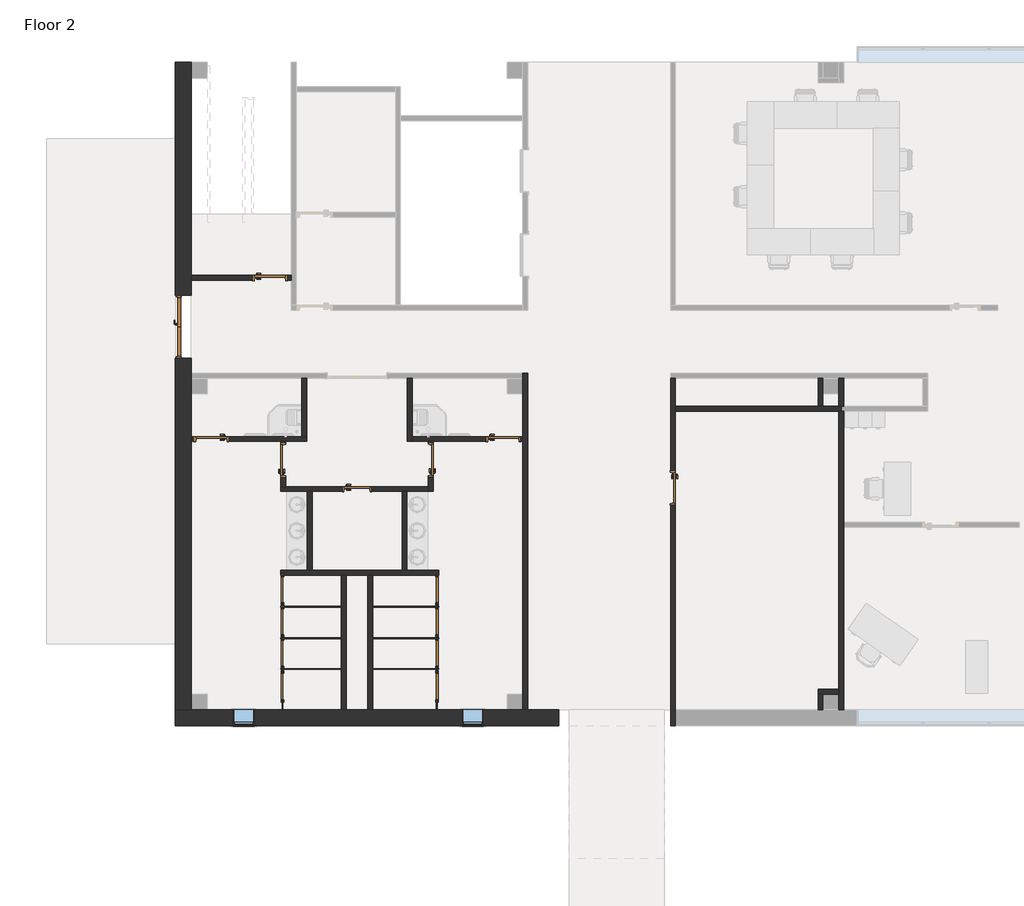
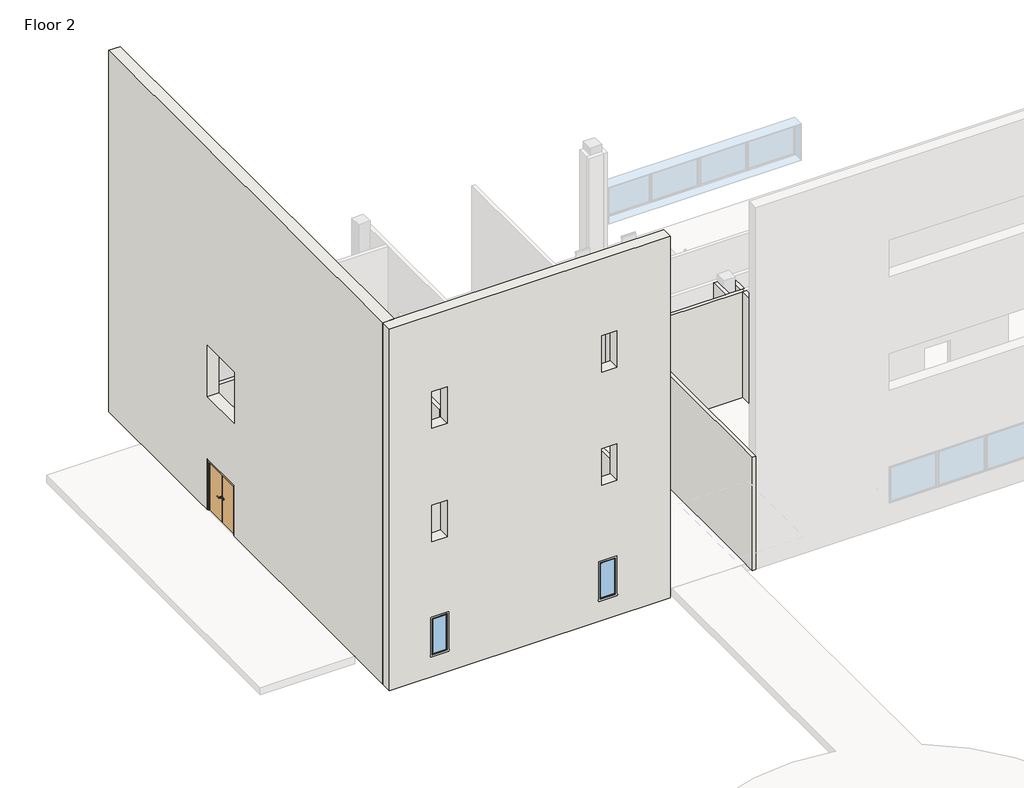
# One storey, part 1 of 7: 37 walls, 16 doors, 2 windows.
"""IFC4 building model written with IfcOpenShell, lengths in millimetres."""

from ifc_helpers import new_model, si_unit, frame, origin, place, context, project, spatial, polyline, outline, extrude, faceted_brep, transform, mapped, element, save
from components import door_efda3cbc, door_b22482a1, door_36f17018, door_a46f4f49, door_b03708da, door_cef5613e, window_69ce9bab

model = new_model("IFC4")

# Units and contexts
model_context = context("Model", 3, world=origin())
ifc_project = project(units=[si_unit("LENGTHUNIT", "METRE", prefix="MILLI")], contexts=[model_context])

# Site, building, storey
site = spatial("IfcSite", under=ifc_project)
building = spatial("IfcBuilding", under=site)
storey = spatial("IfcBuildingStorey", under=building, Name="Floor 2", Elevation=5486.4)

# Doors
placement = place(None, origin())
door_shape = door_efda3cbc(model_context)
element("IfcDoor", 1, ObjectType="Door-Passage-Double-Flush : 68\" x 80\"", at=placement, inside=storey, context=model_context, shape_type="MappedRepresentation", body=[
    mapped(door_shape, transform((-3186.4602165, 49707.011889, 5486.4), x_axis=(0.0, 1.0, 0.0), y_axis=(-1.0, 0.0, 0.0), z_axis=(0.0, 0.0, 1.0))),
])
door_2_shape = door_b22482a1(model_context)
element("IfcDoor", 2, ObjectType="Door-Passage-Single-Flush : 30\" x 84\"", at=placement, inside=storey, context=model_context, shape_type="MappedRepresentation", body=[
    mapped(door_2_shape, transform((1836.7692024, 45008.011889, 5486.4), x_axis=(1.0, 0.0, 0.0), y_axis=(0.0, 1.0, 0.0), z_axis=(0.0, 0.0, 1.0))),
])
door_3_shape = door_36f17018(model_context)
element("IfcDoor", 3, ObjectType="Door-Passage-Single-Flush : 36\" x 84\"", at=placement, inside=storey, context=model_context, shape_type="MappedRepresentation", body=[
    mapped(door_3_shape, transform((3964.0192024, 45858.911889, 5486.4), x_axis=(0.0, 1.0, 0.0), y_axis=(-1.0, 0.0, 0.0), z_axis=(0.0, 0.0, 1.0))),
])
element("IfcDoor", 4, ObjectType="Door-Passage-Single-Flush : 36\" x 84\"", at=placement, inside=storey, context=model_context, shape_type="MappedRepresentation", body=[
    mapped(door_3_shape, transform((-2380.0102165, 46455.811889, 5486.4), x_axis=(-1.0, 0.0, 0.0), y_axis=(0.0, -1.0, 0.0), z_axis=(0.0, 0.0, 1.0))),
])
door_4_shape = door_a46f4f49(model_context)
element("IfcDoor", 5, ObjectType="Door-Passage-Single-Flush : 36\" x 84\"", at=placement, inside=storey, context=model_context, shape_type="MappedRepresentation", body=[
    mapped(door_4_shape, transform((-684.1807976, 51116.711889, 5486.4), x_axis=(1.0, 0.0, 0.0), y_axis=(0.0, 1.0, 0.0), z_axis=(0.0, 0.0, 1.0))),
])
element("IfcDoor", 6, ObjectType="Door-Passage-Single-Flush : 36\" x 84\"", at=placement, inside=storey, context=model_context, shape_type="MappedRepresentation", body=[
    mapped(door_4_shape, transform((-290.4807976, 45852.561889, 5486.4), x_axis=(0.0, 1.0, 0.0), y_axis=(-1.0, 0.0, 0.0), z_axis=(0.0, 0.0, 1.0))),
])
element("IfcDoor", 7, ObjectType="Door-Passage-Single-Flush : 36\" x 84\"", at=placement, inside=storey, context=model_context, shape_type="MappedRepresentation", body=[
    mapped(door_4_shape, transform((6072.2192024, 46455.811889, 5486.4), x_axis=(1.0, 0.0, 0.0), y_axis=(0.0, 1.0, 0.0), z_axis=(0.0, 0.0, 1.0))),
])
element("IfcDoor", 8, ObjectType="Door-Passage-Single-Flush : 36\" x 84\"", at=placement, inside=storey, context=model_context, shape_type="MappedRepresentation", body=[
    mapped(door_4_shape, transform((10974.4192024, 45046.111889, 5486.4), x_axis=(0.0, -1.0, 0.0), y_axis=(1.0, 0.0, 0.0), z_axis=(0.0, 0.0, 1.0))),
])
door_5_shape = door_b03708da(model_context)
element("IfcDoor", 9, ObjectType="Single-Flush : 30\" x 80\"", at=placement, inside=storey, context=model_context, shape_type="MappedRepresentation", body=[
    mapped(door_5_shape, transform((-322.2307976, 42096.536889, 5486.4), x_axis=(0.0, -1.0, 0.0), y_axis=(1.0, 0.0, 0.0), z_axis=(0.0, 0.0, 1.0))),
])
element("IfcDoor", 10, ObjectType="Single-Flush : 30\" x 80\"", at=placement, inside=storey, context=model_context, shape_type="MappedRepresentation", body=[
    mapped(door_5_shape, transform((-322.2307976, 41169.436889, 5486.4), x_axis=(0.0, -1.0, 0.0), y_axis=(1.0, 0.0, 0.0), z_axis=(0.0, 0.0, 1.0))),
])
element("IfcDoor", 11, ObjectType="Single-Flush : 30\" x 80\"", at=placement, inside=storey, context=model_context, shape_type="MappedRepresentation", body=[
    mapped(door_5_shape, transform((-322.2307976, 40255.036889, 5486.4), x_axis=(0.0, -1.0, 0.0), y_axis=(1.0, 0.0, 0.0), z_axis=(0.0, 0.0, 1.0))),
])
element("IfcDoor", 12, ObjectType="Single-Flush : 30\" x 80\"", at=placement, inside=storey, context=model_context, shape_type="MappedRepresentation", body=[
    mapped(door_5_shape, transform((-322.2307976, 39296.186889, 5486.4), x_axis=(0.0, -1.0, 0.0), y_axis=(1.0, 0.0, 0.0), z_axis=(0.0, 0.0, 1.0))),
])
door_6_shape = door_cef5613e(model_context)
element("IfcDoor", 13, ObjectType="Single-Flush : 30\" x 80\"", at=placement, inside=storey, context=model_context, shape_type="MappedRepresentation", body=[
    mapped(door_6_shape, transform((4148.1692024, 42096.536889, 5486.4), x_axis=(0.0, -1.0, 0.0), y_axis=(1.0, 0.0, 0.0), z_axis=(0.0, 0.0, 1.0))),
])
element("IfcDoor", 14, ObjectType="Single-Flush : 30\" x 80\"", at=placement, inside=storey, context=model_context, shape_type="MappedRepresentation", body=[
    mapped(door_6_shape, transform((4148.1692024, 41169.436889, 5486.4), x_axis=(0.0, -1.0, 0.0), y_axis=(1.0, 0.0, 0.0), z_axis=(0.0, 0.0, 1.0))),
])
element("IfcDoor", 15, ObjectType="Single-Flush : 30\" x 80\"", at=placement, inside=storey, context=model_context, shape_type="MappedRepresentation", body=[
    mapped(door_6_shape, transform((4148.1692024, 40255.036889, 5486.4), x_axis=(0.0, -1.0, 0.0), y_axis=(1.0, 0.0, 0.0), z_axis=(0.0, 0.0, 1.0))),
])
element("IfcDoor", 16, ObjectType="Single-Flush : 30\" x 80\"", at=placement, inside=storey, context=model_context, shape_type="MappedRepresentation", body=[
    mapped(door_6_shape, transform((4148.1692024, 39296.186889, 5486.4), x_axis=(0.0, -1.0, 0.0), y_axis=(1.0, 0.0, 0.0), z_axis=(0.0, 0.0, 1.0))),
])

# Walls
element("IfcWall", 17, ObjectType="Interior - 5 1/2\" Partition (1-hr)", at=placement, inside=storey, context=model_context, shape_type="Brep", body=[
    faceted_brep([(6777.0692024, 38618.324389, 5486.4), (6777.0692024, 48360.811889, 5486.4), (6777.0692024, 48360.811889, 10210.8), (6777.0692024, 38618.324389, 10210.8), (6637.3692024, 38618.324389, 5486.4), (6637.3692024, 38618.324389, 10210.8), (6637.3692024, 48360.811889, 10210.8), (6637.3692024, 48360.811889, 9906.0), (6637.3692024, 48360.811889, 5486.4), (6637.3692024, 48221.111889, 5486.4), (6637.3692024, 46532.011889, 5486.4), (6637.3692024, 46392.311889, 5486.4)], [[[0, 1, 2, 3]], [[4, 5, 6, 7, 8, 9, 10, 11]], [[1, 0, 4, 11, 10, 9, 8]], [[3, 2, 6, 5]], [[2, 1, 8, 7, 6]], [[0, 3, 5, 4]]]),
])
element("IfcWall", 18, ObjectType="Interior - 5 1/2\" Partition (1-hr)", at=placement, inside=storey, context=model_context, shape_type="SweptSolid", body=[
    extrude(outline(polyline([(7721.6, -176.1807976), (5486.4, -176.1807976), (5486.4, -61.8807976), (10210.8, -61.8807976), (10210.8, -2965.7977165), (5486.4, -2965.7977165), (5486.4, -1192.1807976), (7721.6, -1192.1807976), (7721.6, -176.1807976)])), frame((0.0, 51053.211889, 0.0), z_axis=(0.0, 1.0, 0.0), x_axis=(0.0, 0.0, 1.0)), (0.0, 0.0, 1.0), 139.7),
])
element("IfcWall", 19, ObjectType="Interior - 5 1/2\" Partition (1-hr)", at=placement, inside=storey, context=model_context, shape_type="Brep", body=[
    faceted_brep([(3290.9192024, 48221.111889, 5486.4), (3290.9192024, 46392.311889, 5486.4), (3290.9192024, 46392.311889, 9906.0), (3290.9192024, 48221.111889, 9906.0), (3430.6192024, 48221.111889, 5486.4), (3430.6192024, 48221.111889, 9906.0), (3430.6192024, 46532.011889, 9906.0), (3430.6192024, 46392.311889, 9906.0), (3430.6192024, 46392.311889, 5486.4), (3430.6192024, 46532.011889, 5486.4)], [[[0, 1, 2, 3]], [[4, 5, 6, 7, 8, 9]], [[1, 0, 4, 9, 8]], [[2, 1, 8, 7]], [[0, 3, 5, 4]], [[3, 2, 7, 6, 5]]]),
])
element("IfcWall", 20, ObjectType="Interior - 5 1/2\" Partition (1-hr)", at=placement, inside=storey, context=model_context, shape_type="Brep", body=[
    faceted_brep([(6580.2192024, 46392.311889, 7721.6), (6580.2192024, 46392.311889, 5486.4), (6637.3692024, 46392.311889, 5486.4), (6637.3692024, 46392.311889, 9906.0), (4040.2192024, 46392.311889, 9906.0), (3900.5192024, 46392.311889, 9906.0), (3430.6192024, 46392.311889, 9906.0), (3430.6192024, 46392.311889, 5486.4), (3900.5192024, 46392.311889, 5486.4), (4040.2192024, 46392.311889, 5486.4), (5564.2192024, 46392.311889, 5486.4), (5564.2192024, 46392.311889, 7721.6), (6637.3692024, 46532.011889, 5486.4), (6580.2192024, 46532.011889, 5486.4), (6580.2192024, 46532.011889, 7721.6), (5564.2192024, 46532.011889, 7721.6), (5564.2192024, 46532.011889, 5486.4), (3430.6192024, 46532.011889, 5486.4), (3430.6192024, 46532.011889, 9906.0), (6637.3692024, 46532.011889, 9906.0)], [[[0, 1, 2, 3, 4, 5, 6, 7, 8, 9, 10, 11]], [[12, 13, 14, 15, 16, 17, 18, 19]], [[2, 1, 13, 12]], [[10, 9, 8, 7, 17, 16]], [[7, 6, 18, 17]], [[3, 2, 12, 19]], [[6, 5, 4, 3, 19, 18]], [[14, 13, 1, 0]], [[15, 14, 0, 11]], [[16, 15, 11, 10]]]),
])
element("IfcWall", 21, ObjectType="Interior - 5 1/2\" Partition (1-hr)", at=placement, inside=storey, context=model_context, shape_type="Brep", body=[
    faceted_brep([(-2965.7977165, 46392.311889, 10210.8), (382.6192024, 46392.311889, 10210.8), (382.6192024, 46532.011889, 10210.8), (-2965.7977165, 46532.011889, 10210.8), (-2965.7977165, 46392.311889, 5486.4), (-2888.0102165, 46392.311889, 5486.4), (-2888.0102165, 46392.311889, 7721.6), (-1872.0102165, 46392.311889, 7721.6), (-1872.0102165, 46392.311889, 5486.4), (-366.6807976, 46392.311889, 5486.4), (-226.9807976, 46392.311889, 5486.4), (382.6192024, 46392.311889, 5486.4), (-2888.0102165, 46532.011889, 7721.6), (-2888.0102165, 46532.011889, 5486.4), (-2965.7977165, 46532.011889, 5486.4), (382.6192024, 46532.011889, 9906.0), (382.6192024, 46532.011889, 5486.4), (242.9192024, 46532.011889, 5486.4), (-1872.0102165, 46532.011889, 5486.4), (-1872.0102165, 46532.011889, 7721.6)], [[[0, 1, 2, 3]], [[4, 5, 6, 7, 8, 9, 10, 11, 1, 0]], [[12, 13, 14, 3, 2, 15, 16, 17, 18, 19]], [[14, 13, 5, 4]], [[18, 17, 16, 11, 10, 9, 8]], [[1, 11, 16, 15, 2]], [[4, 0, 3, 14]], [[6, 5, 13, 12]], [[7, 6, 12, 19]], [[8, 7, 19, 18]]]),
])
element("IfcWall", 22, ObjectType="Interior - 5 1/2\" Partition (1-hr)", at=placement, inside=storey, context=model_context, shape_type="SweptSolid", body=[
    extrude(outline(polyline([(382.6192024, 48221.111889), (382.6192024, 46532.011889), (242.9192024, 46532.011889), (242.9192024, 48221.111889), (382.6192024, 48221.111889)])), frame((0.0, 0.0, 5486.4), z_axis=(0.0, 0.0, 1.0), x_axis=(1.0, 0.0, 0.0)), (0.0, 0.0, 1.0), 4419.6),
])
element("IfcWall", 23, ObjectType="Interior - 5 1/2\" Partition (1-hr)", at=placement, inside=storey, context=model_context, shape_type="Brep", body=[
    faceted_brep([(3900.5192024, 46392.311889, 5486.4), (3900.5192024, 46366.911889, 5486.4), (3900.5192024, 46366.911889, 7721.6), (3900.5192024, 45350.911889, 7721.6), (3900.5192024, 45350.911889, 5486.4), (3900.5192024, 45084.211889, 5486.4), (3900.5192024, 44944.511889, 5486.4), (3900.5192024, 44944.511889, 9906.0), (3900.5192024, 45084.211889, 9906.0), (3900.5192024, 46392.311889, 9906.0), (4040.2192024, 46366.911889, 7721.6), (4040.2192024, 46366.911889, 5486.4), (4040.2192024, 46392.311889, 5486.4), (4040.2192024, 46392.311889, 9906.0), (4040.2192024, 44944.511889, 9906.0), (4040.2192024, 44944.511889, 5486.4), (4040.2192024, 45350.911889, 5486.4), (4040.2192024, 45350.911889, 7721.6)], [[[0, 1, 2, 3, 4, 5, 6, 7, 8, 9]], [[10, 11, 12, 13, 14, 15, 16, 17]], [[12, 11, 1, 0]], [[16, 15, 6, 5, 4]], [[0, 9, 13, 12]], [[7, 6, 15, 14]], [[9, 8, 7, 14, 13]], [[2, 1, 11, 10]], [[3, 2, 10, 17]], [[4, 3, 17, 16]]]),
])
element("IfcWall", 24, ObjectType="Interior - 5 1/2\" Partition (1-hr)", at=placement, inside=storey, context=model_context, shape_type="Brep", body=[
    faceted_brep([(3900.5192024, 45084.211889, 5486.4), (2268.5692024, 45084.211889, 5486.4), (2268.5692024, 45084.211889, 7721.6), (1404.9692024, 45084.211889, 7721.6), (1404.9692024, 45084.211889, 5486.4), (-226.9807976, 45084.211889, 5486.4), (-366.6807976, 45084.211889, 5486.4), (-366.6807976, 45084.211889, 9906.0), (-226.9807976, 45084.211889, 9906.0), (3900.5192024, 45084.211889, 9906.0), (2268.5692024, 44944.511889, 7721.6), (2268.5692024, 44944.511889, 5486.4), (3138.5192024, 44944.511889, 5486.4), (3278.2192024, 44944.511889, 5486.4), (3900.5192024, 44944.511889, 5486.4), (3900.5192024, 44944.511889, 9906.0), (3278.2192024, 44944.511889, 9906.0), (3138.5192024, 44944.511889, 9906.0), (535.0192024, 44944.511889, 9906.0), (395.3192024, 44944.511889, 9906.0), (-366.6807976, 44944.511889, 9906.0), (-366.6807976, 44944.511889, 5486.4), (395.3192024, 44944.511889, 5486.4), (535.0192024, 44944.511889, 5486.4), (1404.9692024, 44944.511889, 5486.4), (1404.9692024, 44944.511889, 7721.6)], [[[0, 1, 2, 3, 4, 5, 6, 7, 8, 9]], [[10, 11, 12, 13, 14, 15, 16, 17, 18, 19, 20, 21, 22, 23, 24, 25]], [[14, 13, 12, 11, 1, 0]], [[24, 23, 22, 21, 6, 5, 4]], [[0, 9, 15, 14]], [[7, 6, 21, 20]], [[9, 8, 7, 20, 19, 18, 17, 16, 15]], [[2, 1, 11, 10]], [[3, 2, 10, 25]], [[4, 3, 25, 24]]]),
])
element("IfcWall", 25, ObjectType="Interior - 5 1/2\" Partition (1-hr)", at=placement, inside=storey, context=model_context, shape_type="Brep", body=[
    faceted_brep([(2147.9192024, 42518.811889, 5486.4), (2147.9192024, 38618.324389, 5486.4), (2147.9192024, 38618.324389, 10210.8), (2147.9192024, 42518.811889, 10210.8), (2287.6192024, 42518.811889, 5486.4), (2287.6192024, 42518.811889, 10210.8), (2287.6192024, 38618.324389, 10210.8), (2287.6192024, 38618.324389, 5486.4), (2287.6192024, 39788.311889, 5486.4), (2287.6192024, 39813.711889, 5486.4), (2287.6192024, 40677.311889, 5486.4), (2287.6192024, 40702.711889, 5486.4), (2287.6192024, 41591.711889, 5486.4), (2287.6192024, 41617.111889, 5486.4)], [[[0, 1, 2, 3]], [[4, 5, 6, 7, 8, 9, 10, 11, 12, 13]], [[1, 0, 4, 13, 12, 11, 10, 9, 8, 7]], [[3, 2, 6, 5]], [[0, 3, 5, 4]], [[2, 1, 7, 6]]]),
])
element("IfcWall", 26, ObjectType="Interior - 5 1/2\" Partition (1-hr)", at=placement, inside=storey, context=model_context, shape_type="Brep", body=[
    faceted_brep([(-373.0307976, 42518.811889, 5486.4), (-334.9307976, 42518.811889, 5486.4), (-309.5307976, 42518.811889, 5486.4), (1385.9192024, 42518.811889, 5486.4), (1525.6192024, 42518.811889, 5486.4), (2147.9192024, 42518.811889, 5486.4), (2287.6192024, 42518.811889, 5486.4), (4135.4692024, 42518.811889, 5486.4), (4160.8692024, 42518.811889, 5486.4), (4198.9692024, 42518.811889, 5486.4), (4198.9692024, 42518.811889, 9906.0), (-373.0307976, 42518.811889, 9906.0), (-373.0307976, 42658.511889, 5486.4), (-373.0307976, 42658.511889, 9906.0), (395.3192024, 42658.511889, 9906.0), (535.0192024, 42658.511889, 9906.0), (3138.5192024, 42658.511889, 9906.0), (3278.2192024, 42658.511889, 9906.0), (4198.9692024, 42658.511889, 9906.0), (4198.9692024, 42658.511889, 5486.4), (3278.2192024, 42658.511889, 5486.4), (3138.5192024, 42658.511889, 5486.4), (535.0192024, 42658.511889, 5486.4), (395.3192024, 42658.511889, 5486.4)], [[[0, 1, 2, 3, 4, 5, 6, 7, 8, 9, 10, 11]], [[12, 13, 14, 15, 16, 17, 18, 19, 20, 21, 22, 23]], [[9, 8, 7, 6, 5, 4, 3, 2, 1, 0, 12, 23, 22, 21, 20, 19]], [[10, 9, 19, 18]], [[0, 11, 13, 12]], [[11, 10, 18, 17, 16, 15, 14, 13]]]),
])
element("IfcWall", 27, ObjectType="Interior - 5 1/2\" Partition (1-hr)", at=placement, inside=storey, context=model_context, shape_type="SweptSolid", body=[
    extrude(outline(polyline([(3278.2192024, 44944.511889), (3278.2192024, 42658.511889), (3138.5192024, 42658.511889), (3138.5192024, 44944.511889), (3278.2192024, 44944.511889)])), frame((0.0, 0.0, 5486.4), z_axis=(0.0, 0.0, 1.0), x_axis=(1.0, 0.0, 0.0)), (0.0, 0.0, 1.0), 4419.6),
])
element("IfcWall", 28, ObjectType="Interior - 5 1/2\" Partition (1-hr)", at=placement, inside=storey, context=model_context, shape_type="Brep", body=[
    faceted_brep([(1385.9192024, 42518.811889, 5486.4), (1385.9192024, 41617.111889, 5486.4), (1385.9192024, 41591.711889, 5486.4), (1385.9192024, 40702.711889, 5486.4), (1385.9192024, 40677.311889, 5486.4), (1385.9192024, 39813.711889, 5486.4), (1385.9192024, 39788.311889, 5486.4), (1385.9192024, 38618.324389, 5486.4), (1385.9192024, 38618.324389, 10210.8), (1385.9192024, 42518.811889, 10210.8), (1525.6192024, 42518.811889, 5486.4), (1525.6192024, 42518.811889, 10210.8), (1525.6192024, 38618.324389, 10210.8), (1525.6192024, 38618.324389, 5486.4)], [[[0, 1, 2, 3, 4, 5, 6, 7, 8, 9]], [[10, 11, 12, 13]], [[7, 6, 5, 4, 3, 2, 1, 0, 10, 13]], [[9, 8, 12, 11]], [[0, 9, 11, 10]], [[8, 7, 13, 12]]]),
])
element("IfcWall", 29, ObjectType="Interior - 5 1/2\" Partition (1-hr)", at=placement, inside=storey, context=model_context, shape_type="SweptSolid", body=[
    extrude(outline(polyline([(46392.311889, 5486.4), (46360.561889, 5486.4), (46360.561889, 7721.6), (45344.561889, 7721.6), (45344.561889, 5486.4), (45084.211889, 5486.4), (45084.211889, 9906.0), (46392.311889, 9906.0), (46392.311889, 5486.4)])), frame((-366.6807976, 0.0, 0.0), z_axis=(1.0, 0.0, 0.0), x_axis=(0.0, 1.0, 0.0)), (0.0, 0.0, 1.0), 139.7),
])
element("IfcWall", 30, ObjectType="Interior - 5 1/2\" Partition (1-hr)", at=placement, inside=storey, context=model_context, shape_type="SweptSolid", body=[
    extrude(outline(polyline([(395.3192024, 42658.511889), (395.3192024, 44944.511889), (535.0192024, 44944.511889), (535.0192024, 42658.511889), (395.3192024, 42658.511889)])), frame((0.0, 0.0, 5486.4), z_axis=(0.0, 0.0, 1.0), x_axis=(1.0, 0.0, 0.0)), (0.0, 0.0, 1.0), 4419.6),
])
element("IfcWall", 31, ObjectType="Interior - 5 1/2\" Partition (1-hr)", at=placement, inside=storey, context=model_context, shape_type="Brep", body=[
    faceted_brep([(10910.9192024, 48221.111889, 10210.8), (10910.9192024, 38164.299389, 10210.8), (11050.6192024, 38164.299389, 10210.8), (11050.6192024, 48221.111889, 10210.8), (11050.6192024, 38164.299389, 5486.4), (11050.6192024, 38618.324389, 5486.4), (11050.6192024, 44538.111889, 5486.4), (11050.6192024, 44538.111889, 7721.6), (11050.6192024, 45554.111889, 7721.6), (11050.6192024, 45554.111889, 5486.4), (11050.6192024, 47262.261889, 5486.4), (11050.6192024, 47401.961889, 5486.4), (11050.6192024, 48221.111889, 5486.4), (10910.9192024, 48221.111889, 9906.0), (10910.9192024, 48221.111889, 5486.4), (10910.9192024, 45554.111889, 5486.4), (10910.9192024, 45554.111889, 7721.6), (10910.9192024, 44538.111889, 7721.6), (10910.9192024, 44538.111889, 5486.4), (10910.9192024, 38164.299389, 5486.4)], [[[0, 1, 2, 3]], [[3, 2, 4, 5, 6, 7, 8, 9, 10, 11, 12]], [[1, 0, 13, 14, 15, 16, 17, 18, 19]], [[14, 12, 11, 10, 9, 15]], [[4, 19, 18, 6, 5]], [[14, 13, 0, 3, 12]], [[1, 19, 4, 2]], [[17, 7, 6, 18]], [[7, 17, 16, 8]], [[8, 16, 15, 9]]]),
])
element("IfcWall", 32, ObjectType="Interior - 5 1/2\" Partition (1-hr)", at=placement, inside=storey, context=model_context, shape_type="Brep", body=[
    faceted_brep([(15324.1692024, 47401.961889, 5486.4), (15324.1692024, 47763.911889, 5486.4), (15324.1692024, 48221.111889, 5486.4), (15324.1692024, 48221.111889, 9906.0), (15324.1692024, 47401.961889, 9906.0), (15184.4692024, 47401.961889, 5486.4), (15184.4692024, 47401.961889, 9906.0), (15184.4692024, 48221.111889, 9906.0), (15184.4692024, 48221.111889, 5486.4)], [[[0, 1, 2, 3, 4]], [[5, 6, 7, 8]], [[2, 1, 0, 5, 8]], [[0, 4, 6, 5]], [[3, 2, 8, 7]], [[4, 3, 7, 6]]]),
])
element("IfcWall", 33, ObjectType="Interior - 5 1/2\" Partition (1-hr)", at=placement, inside=storey, context=model_context, shape_type="Brep", body=[
    faceted_brep([(15921.0692024, 47401.961889, 5486.4), (15921.0692024, 48221.111889, 5486.4), (15921.0692024, 48221.111889, 9906.0), (15921.0692024, 47401.961889, 9906.0), (15781.3692024, 47401.961889, 5486.4), (15781.3692024, 47401.961889, 9906.0), (15781.3692024, 48221.111889, 9906.0), (15781.3692024, 48221.111889, 5486.4), (15781.3692024, 47763.911889, 5486.4), (15851.2192024, 47401.961889, 5486.4), (15851.2192024, 47401.961889, 9906.0)], [[[0, 1, 2, 3]], [[4, 5, 6, 7, 8]], [[1, 0, 9, 4, 8, 7]], [[0, 3, 10, 5, 4, 9]], [[2, 1, 7, 6]], [[3, 2, 6, 5, 10]]]),
])
element("IfcWall", 34, ObjectType="Interior - 5 1/2\" Partition (1-hr)", at=placement, inside=storey, context=model_context, shape_type="Brep", body=[
    faceted_brep([(15921.0692024, 47262.261889, 5486.4), (15921.0692024, 47262.261889, 9906.0), (15921.0692024, 38618.324389, 9906.0), (15921.0692024, 38618.324389, 5486.4), (15921.0692024, 43909.461889, 5486.4), (15921.0692024, 44049.161889, 5486.4), (15781.3692024, 47262.261889, 5486.4), (15781.3692024, 39216.811889, 5486.4), (15781.3692024, 39077.111889, 5486.4), (15781.3692024, 38619.911889, 5486.4), (15781.3692024, 38618.324389, 5486.4), (15781.3692024, 38618.324389, 9906.0), (15781.3692024, 39077.111889, 9906.0), (15781.3692024, 39216.811889, 9906.0), (15781.3692024, 47262.261889, 9906.0), (15851.2192024, 47262.261889, 5486.4), (15851.2192024, 47262.261889, 9906.0)], [[[0, 1, 2, 3, 4, 5]], [[6, 7, 8, 9, 10, 11, 12, 13, 14]], [[10, 9, 8, 7, 6, 15, 0, 5, 4, 3]], [[14, 13, 12, 11, 2, 1, 16]], [[6, 14, 16, 1, 0, 15]], [[11, 10, 3, 2]]]),
])
element("IfcWall", 35, ObjectType="Interior - 5 1/2\" Partition (1-hr)", at=placement, inside=storey, context=model_context, shape_type="Brep", body=[
    faceted_brep([(15781.3692024, 39216.811889, 5486.4), (15184.4692024, 39216.811889, 5486.4), (15184.4692024, 39216.811889, 9906.0), (15781.3692024, 39216.811889, 9906.0), (15781.3692024, 39077.111889, 5486.4), (15781.3692024, 39077.111889, 9906.0), (15324.1692024, 39077.111889, 9906.0), (15184.4692024, 39077.111889, 9906.0), (15184.4692024, 39077.111889, 5486.4), (15324.1692024, 39077.111889, 5486.4)], [[[0, 1, 2, 3]], [[4, 5, 6, 7, 8, 9]], [[1, 0, 4, 9, 8]], [[2, 1, 8, 7]], [[0, 3, 5, 4]], [[3, 2, 7, 6, 5]]]),
])
element("IfcWall", 36, ObjectType="Interior - 5 1/2\" Partition (1-hr)", at=placement, inside=storey, context=model_context, shape_type="Brep", body=[
    faceted_brep([(15184.4692024, 39077.111889, 5486.4), (15184.4692024, 38618.324389, 5486.4), (15184.4692024, 38618.324389, 9906.0), (15184.4692024, 39077.111889, 9906.0), (15324.1692024, 39077.111889, 5486.4), (15324.1692024, 39077.111889, 9906.0), (15324.1692024, 38618.324389, 9906.0), (15324.1692024, 38618.324389, 5486.4), (15324.1692024, 38619.911889, 5486.4)], [[[0, 1, 2, 3]], [[4, 5, 6, 7, 8]], [[1, 0, 4, 8, 7]], [[0, 3, 5, 4]], [[2, 1, 7, 6]], [[3, 2, 6, 5]]]),
])
element("IfcWall", 37, ObjectType="Interior - 5 1/2\" Partition (1-hr)", at=placement, inside=storey, context=model_context, shape_type="Brep", body=[
    faceted_brep([(15851.2192024, 47401.961889, 5486.4), (15781.3692024, 47401.961889, 5486.4), (15324.1692024, 47401.961889, 5486.4), (15184.4692024, 47401.961889, 5486.4), (11050.6192024, 47401.961889, 5486.4), (11050.6192024, 47401.961889, 9906.0), (15184.4692024, 47401.961889, 9906.0), (15324.1692024, 47401.961889, 9906.0), (15781.3692024, 47401.961889, 9906.0), (15851.2192024, 47401.961889, 9906.0), (15851.2192024, 47262.261889, 5486.4), (15851.2192024, 47262.261889, 9906.0), (15781.3692024, 47262.261889, 9906.0), (11050.6192024, 47262.261889, 9906.0), (11050.6192024, 47262.261889, 5486.4), (15781.3692024, 47262.261889, 5486.4)], [[[0, 1, 2, 3, 4, 5, 6, 7, 8, 9]], [[10, 11, 12, 13, 14, 15]], [[4, 3, 2, 1, 0, 10, 15, 14]], [[0, 9, 11, 10]], [[5, 4, 14, 13]], [[9, 8, 7, 6, 5, 13, 12, 11]]]),
])
element("IfcWall", 38, ObjectType="Stone on CMU", at=placement, inside=storey, context=model_context, shape_type="Brep", body=[
    faceted_brep([(7675.2526119, 38618.324389, 20574.0), (-2965.7977165, 38618.324389, 20574.0), (-3419.8227165, 38618.324389, 20574.0), (-3419.8227165, 38164.299389, 20574.0), (7675.2526119, 38164.299389, 20574.0), (7675.2526119, 38618.324389, 5486.4), (6777.0692024, 38618.324389, 5486.4), (6637.3692024, 38618.324389, 5486.4), (4160.8692024, 38618.324389, 5486.4), (4135.4692024, 38618.324389, 5486.4), (2287.6192024, 38618.324389, 5486.4), (2147.9192024, 38618.324389, 5486.4), (1525.6192024, 38618.324389, 5486.4), (1385.9192024, 38618.324389, 5486.4), (-309.5307976, 38618.324389, 5486.4), (-334.9307976, 38618.324389, 5486.4), (-2965.7977165, 38618.324389, 5486.4), (-3419.8227165, 38618.324389, 5486.4), (7675.2526119, 38618.324389, 19659.6), (-1750.9807976, 38618.324389, 17373.6), (-1750.9807976, 38618.324389, 15849.6), (-1141.3807976, 38618.324389, 15849.6), (-1141.3807976, 38618.324389, 17373.6), (4954.6192024, 38618.324389, 17373.6), (4954.6192024, 38618.324389, 15849.6), (5564.2192024, 38618.324389, 15849.6), (5564.2192024, 38618.324389, 17373.6), (-1750.9807976, 38618.324389, 12649.2), (-1750.9807976, 38618.324389, 11125.2), (-1141.3807976, 38618.324389, 11125.2), (-1141.3807976, 38618.324389, 12649.2), (4954.6192024, 38618.324389, 12649.2), (4954.6192024, 38618.324389, 11125.2), (5564.2192024, 38618.324389, 11125.2), (5564.2192024, 38618.324389, 12649.2), (-1750.9807976, 38618.324389, 7924.8), (-1750.9807976, 38618.324389, 6400.8), (-1141.3807976, 38618.324389, 6400.8), (-1141.3807976, 38618.324389, 7924.8), (4884.7692024, 38618.324389, 7924.8), (4884.7692024, 38618.324389, 6400.8), (5494.3692024, 38618.324389, 6400.8), (5494.3692024, 38618.324389, 7924.8), (7675.2526119, 38164.299389, 5486.4), (-3419.8227165, 38164.299389, 5486.4), (-1750.9807976, 38164.299389, 17373.6), (-1141.3807976, 38164.299389, 17373.6), (-1141.3807976, 38164.299389, 15849.6), (-1750.9807976, 38164.299389, 15849.6), (4954.6192024, 38164.299389, 17373.6), (5564.2192024, 38164.299389, 17373.6), (5564.2192024, 38164.299389, 15849.6), (4954.6192024, 38164.299389, 15849.6), (-1750.9807976, 38164.299389, 12649.2), (-1141.3807976, 38164.299389, 12649.2), (-1141.3807976, 38164.299389, 11125.2), (-1750.9807976, 38164.299389, 11125.2), (4954.6192024, 38164.299389, 12649.2), (5564.2192024, 38164.299389, 12649.2), (5564.2192024, 38164.299389, 11125.2), (4954.6192024, 38164.299389, 11125.2), (-1750.9807976, 38164.299389, 7924.8), (-1141.3807976, 38164.299389, 7924.8), (-1141.3807976, 38164.299389, 6400.8), (-1750.9807976, 38164.299389, 6400.8), (4884.7692024, 38164.299389, 7924.8), (5494.3692024, 38164.299389, 7924.8), (5494.3692024, 38164.299389, 6400.8), (4884.7692024, 38164.299389, 6400.8)], [[[0, 1, 2, 3, 4]], [[5, 6, 7, 8, 9, 10, 11, 12, 13, 14, 15, 16, 17, 2, 1, 0, 18], [19, 20, 21, 22], [23, 24, 25, 26], [27, 28, 29, 30], [31, 32, 33, 34], [35, 36, 37, 38], [39, 40, 41, 42]], [[43, 4, 3, 44], [45, 46, 47, 48], [49, 50, 51, 52], [53, 54, 55, 56], [57, 58, 59, 60], [61, 62, 63, 64], [65, 66, 67, 68]], [[17, 16, 15, 14, 13, 12, 11, 10, 9, 8, 7, 6, 5, 43, 44]], [[2, 17, 44, 3]], [[5, 18, 0, 4, 43]], [[20, 19, 45, 48]], [[21, 20, 48, 47]], [[22, 21, 47, 46]], [[19, 22, 46, 45]], [[24, 23, 49, 52]], [[25, 24, 52, 51]], [[26, 25, 51, 50]], [[23, 26, 50, 49]], [[28, 27, 53, 56]], [[29, 28, 56, 55]], [[30, 29, 55, 54]], [[27, 30, 54, 53]], [[32, 31, 57, 60]], [[33, 32, 60, 59]], [[34, 33, 59, 58]], [[31, 34, 58, 57]], [[36, 35, 61, 64]], [[37, 36, 64, 63]], [[38, 37, 63, 62]], [[35, 38, 62, 61]], [[40, 39, 65, 68]], [[41, 40, 68, 67]], [[42, 41, 67, 66]], [[39, 42, 66, 65]]]),
])
element("IfcWall", 39, ObjectType="Stone on CMU", at=placement, inside=storey, context=model_context, shape_type="Brep", body=[
    faceted_brep([(-2965.7977165, 38618.324389, 20574.0), (-2965.7977165, 57366.699389, 20574.0), (-3419.8227165, 57366.699389, 20574.0), (-3419.8227165, 38618.324389, 20574.0), (-2965.7977165, 38618.324389, 5486.4), (-2965.7977165, 46392.311889, 5486.4), (-2965.7977165, 46532.011889, 5486.4), (-2965.7977165, 48221.111889, 5486.4), (-2965.7977165, 48360.811889, 5486.4), (-2965.7977165, 48792.611889, 5486.4), (-2965.7977165, 48792.611889, 7620.0), (-2965.7977165, 50621.411889, 7620.0), (-2965.7977165, 50621.411889, 5486.4), (-2965.7977165, 51053.211889, 5486.4), (-2965.7977165, 51192.911889, 5486.4), (-2965.7977165, 57366.699389, 5486.4), (-2965.7977165, 50621.411889, 10210.8), (-2965.7977165, 48792.611889, 10210.8), (-2965.7977165, 48792.611889, 12344.4), (-2965.7977165, 50621.411889, 12344.4), (-3419.8227165, 57366.699389, 5486.4), (-3419.8227165, 50621.411889, 5486.4), (-3419.8227165, 50621.411889, 7620.0), (-3419.8227165, 48792.611889, 7620.0), (-3419.8227165, 48792.611889, 5486.4), (-3419.8227165, 38618.324389, 5486.4), (-3419.8227165, 50621.411889, 10210.8), (-3419.8227165, 50621.411889, 12344.4), (-3419.8227165, 48792.611889, 12344.4), (-3419.8227165, 48792.611889, 10210.8)], [[[0, 1, 2, 3]], [[1, 0, 4, 5, 6, 7, 8, 9, 10, 11, 12, 13, 14, 15], [16, 17, 18, 19]], [[3, 2, 20, 21, 22, 23, 24, 25], [26, 27, 28, 29]], [[4, 25, 24, 9, 8, 7, 6, 5]], [[20, 15, 14, 13, 12, 21]], [[4, 0, 3, 25]], [[1, 15, 20, 2]], [[11, 22, 21, 12]], [[22, 11, 10, 23]], [[23, 10, 9, 24]], [[27, 26, 16, 19]], [[28, 27, 19, 18]], [[29, 28, 18, 17]], [[26, 29, 17, 16]]]),
])
element("IfcWall", 40, ObjectType="toilet partition - 1\"", at=placement, inside=storey, context=model_context, shape_type="Brep", body=[
    faceted_brep([(2287.6192024, 39788.311889, 5486.4), (4135.4692024, 39788.311889, 5486.4), (4160.8692024, 39788.311889, 5486.4), (4198.9692024, 39788.311889, 5486.4), (4198.9692024, 39788.311889, 7924.8), (4160.8692024, 39788.311889, 7924.8), (4135.4692024, 39788.311889, 7924.8), (2287.6192024, 39788.311889, 7924.8), (2287.6192024, 39813.711889, 5486.4), (2287.6192024, 39813.711889, 7924.8), (4135.4692024, 39813.711889, 7924.8), (4160.8692024, 39813.711889, 7924.8), (4198.9692024, 39813.711889, 7924.8), (4198.9692024, 39813.711889, 5486.4), (4160.8692024, 39813.711889, 5486.4), (4135.4692024, 39813.711889, 5486.4)], [[[0, 1, 2, 3, 4, 5, 6, 7]], [[8, 9, 10, 11, 12, 13, 14, 15]], [[3, 2, 1, 0, 8, 15, 14, 13]], [[4, 3, 13, 12]], [[7, 6, 5, 4, 12, 11, 10, 9]], [[0, 7, 9, 8]]]),
])
element("IfcWall", 41, ObjectType="toilet partition - 1\"", at=placement, inside=storey, context=model_context, shape_type="Brep", body=[
    faceted_brep([(2287.6192024, 40677.311889, 5486.4), (4135.4692024, 40677.311889, 5486.4), (4160.8692024, 40677.311889, 5486.4), (4198.9692024, 40677.311889, 5486.4), (4198.9692024, 40677.311889, 7924.8), (4160.8692024, 40677.311889, 7924.8), (4135.4692024, 40677.311889, 7924.8), (2287.6192024, 40677.311889, 7924.8), (2287.6192024, 40702.711889, 5486.4), (2287.6192024, 40702.711889, 7924.8), (4135.4692024, 40702.711889, 7924.8), (4160.8692024, 40702.711889, 7924.8), (4198.9692024, 40702.711889, 7924.8), (4198.9692024, 40702.711889, 5486.4), (4160.8692024, 40702.711889, 5486.4), (4135.4692024, 40702.711889, 5486.4)], [[[0, 1, 2, 3, 4, 5, 6, 7]], [[8, 9, 10, 11, 12, 13, 14, 15]], [[3, 2, 1, 0, 8, 15, 14, 13]], [[4, 3, 13, 12]], [[7, 6, 5, 4, 12, 11, 10, 9]], [[0, 7, 9, 8]]]),
])
element("IfcWall", 42, ObjectType="toilet partition - 1\"", at=placement, inside=storey, context=model_context, shape_type="Brep", body=[
    faceted_brep([(2287.6192024, 41591.711889, 5486.4), (4135.4692024, 41591.711889, 5486.4), (4160.8692024, 41591.711889, 5486.4), (4198.9692024, 41591.711889, 5486.4), (4198.9692024, 41591.711889, 7924.8), (4160.8692024, 41591.711889, 7924.8), (4135.4692024, 41591.711889, 7924.8), (2287.6192024, 41591.711889, 7924.8), (2287.6192024, 41617.111889, 5486.4), (2287.6192024, 41617.111889, 7924.8), (4135.4692024, 41617.111889, 7924.8), (4160.8692024, 41617.111889, 7924.8), (4198.9692024, 41617.111889, 7924.8), (4198.9692024, 41617.111889, 5486.4), (4160.8692024, 41617.111889, 5486.4), (4135.4692024, 41617.111889, 5486.4)], [[[0, 1, 2, 3, 4, 5, 6, 7]], [[8, 9, 10, 11, 12, 13, 14, 15]], [[3, 2, 1, 0, 8, 15, 14, 13]], [[4, 3, 13, 12]], [[7, 6, 5, 4, 12, 11, 10, 9]], [[0, 7, 9, 8]]]),
])
element("IfcWall", 43, ObjectType="toilet partition - 1\"", at=placement, inside=storey, context=model_context, shape_type="Brep", body=[
    faceted_brep([(1385.9192024, 41617.111889, 5486.4), (-309.5307976, 41617.111889, 5486.4), (-334.9307976, 41617.111889, 5486.4), (-373.0307976, 41617.111889, 5486.4), (-373.0307976, 41617.111889, 7924.8), (-334.9307976, 41617.111889, 7924.8), (-309.5307976, 41617.111889, 7924.8), (1385.9192024, 41617.111889, 7924.8), (1385.9192024, 41591.711889, 5486.4), (1385.9192024, 41591.711889, 7924.8), (-309.5307976, 41591.711889, 7924.8), (-334.9307976, 41591.711889, 7924.8), (-373.0307976, 41591.711889, 7924.8), (-373.0307976, 41591.711889, 5486.4), (-334.9307976, 41591.711889, 5486.4), (-309.5307976, 41591.711889, 5486.4)], [[[0, 1, 2, 3, 4, 5, 6, 7]], [[8, 9, 10, 11, 12, 13, 14, 15]], [[3, 2, 1, 0, 8, 15, 14, 13]], [[4, 3, 13, 12]], [[7, 6, 5, 4, 12, 11, 10, 9]], [[0, 7, 9, 8]]]),
])
element("IfcWall", 44, ObjectType="toilet partition - 1\"", at=placement, inside=storey, context=model_context, shape_type="Brep", body=[
    faceted_brep([(1385.9192024, 40702.711889, 5486.4), (-309.5307976, 40702.711889, 5486.4), (-334.9307976, 40702.711889, 5486.4), (-373.0307976, 40702.711889, 5486.4), (-373.0307976, 40702.711889, 7924.8), (-334.9307976, 40702.711889, 7924.8), (-309.5307976, 40702.711889, 7924.8), (1385.9192024, 40702.711889, 7924.8), (1385.9192024, 40677.311889, 5486.4), (1385.9192024, 40677.311889, 7924.8), (-309.5307976, 40677.311889, 7924.8), (-334.9307976, 40677.311889, 7924.8), (-373.0307976, 40677.311889, 7924.8), (-373.0307976, 40677.311889, 5486.4), (-334.9307976, 40677.311889, 5486.4), (-309.5307976, 40677.311889, 5486.4)], [[[0, 1, 2, 3, 4, 5, 6, 7]], [[8, 9, 10, 11, 12, 13, 14, 15]], [[3, 2, 1, 0, 8, 15, 14, 13]], [[4, 3, 13, 12]], [[7, 6, 5, 4, 12, 11, 10, 9]], [[0, 7, 9, 8]]]),
])
element("IfcWall", 45, ObjectType="toilet partition - 1\"", at=placement, inside=storey, context=model_context, shape_type="Brep", body=[
    faceted_brep([(1385.9192024, 39813.711889, 5486.4), (-309.5307976, 39813.711889, 5486.4), (-334.9307976, 39813.711889, 5486.4), (-373.0307976, 39813.711889, 5486.4), (-373.0307976, 39813.711889, 7924.8), (-334.9307976, 39813.711889, 7924.8), (-309.5307976, 39813.711889, 7924.8), (1385.9192024, 39813.711889, 7924.8), (1385.9192024, 39788.311889, 5486.4), (1385.9192024, 39788.311889, 7924.8), (-309.5307976, 39788.311889, 7924.8), (-334.9307976, 39788.311889, 7924.8), (-373.0307976, 39788.311889, 7924.8), (-373.0307976, 39788.311889, 5486.4), (-334.9307976, 39788.311889, 5486.4), (-309.5307976, 39788.311889, 5486.4)], [[[0, 1, 2, 3, 4, 5, 6, 7]], [[8, 9, 10, 11, 12, 13, 14, 15]], [[3, 2, 1, 0, 8, 15, 14, 13]], [[4, 3, 13, 12]], [[7, 6, 5, 4, 12, 11, 10, 9]], [[0, 7, 9, 8]]]),
])
element("IfcWall", 46, ObjectType="toilet partition - 1\"", at=placement, inside=storey, context=model_context, shape_type="SweptSolid", body=[
    extrude(outline(polyline([(41715.536889, 7518.4), (41715.536889, 5486.4), (41617.111889, 5486.4), (41617.111889, 7924.8), (42518.811889, 7924.8), (42518.811889, 5486.4), (42477.536889, 5486.4), (42477.536889, 7518.4), (41715.536889, 7518.4)])), frame((-334.9307976, 0.0, 0.0), z_axis=(1.0, 0.0, 0.0), x_axis=(0.0, 1.0, 0.0)), (0.0, 0.0, 1.0), 25.4),
])
element("IfcWall", 47, ObjectType="toilet partition - 1\"", at=placement, inside=storey, context=model_context, shape_type="SweptSolid", body=[
    extrude(outline(polyline([(40788.436889, 7518.4), (40788.436889, 5486.4), (40702.711889, 5486.4), (40702.711889, 7924.8), (41591.711889, 7924.8), (41591.711889, 5486.4), (41550.436889, 5486.4), (41550.436889, 7518.4), (40788.436889, 7518.4)])), frame((-334.9307976, 0.0, 0.0), z_axis=(1.0, 0.0, 0.0), x_axis=(0.0, 1.0, 0.0)), (0.0, 0.0, 1.0), 25.4),
])
element("IfcWall", 48, ObjectType="toilet partition - 1\"", at=placement, inside=storey, context=model_context, shape_type="SweptSolid", body=[
    extrude(outline(polyline([(39874.036889, 7518.4), (39874.036889, 5486.4), (39813.711889, 5486.4), (39813.711889, 7924.8), (40677.311889, 7924.8), (40677.311889, 5486.4), (40636.036889, 5486.4), (40636.036889, 7518.4), (39874.036889, 7518.4)])), frame((-334.9307976, 0.0, 0.0), z_axis=(1.0, 0.0, 0.0), x_axis=(0.0, 1.0, 0.0)), (0.0, 0.0, 1.0), 25.4),
])
element("IfcWall", 49, ObjectType="toilet partition - 1\"", at=placement, inside=storey, context=model_context, shape_type="SweptSolid", body=[
    extrude(outline(polyline([(38915.186889, 7518.4), (38915.186889, 5486.4), (38618.324389, 5486.4), (38618.324389, 7924.8), (39788.311889, 7924.8), (39788.311889, 5486.4), (39677.186889, 5486.4), (39677.186889, 7518.4), (38915.186889, 7518.4)])), frame((-334.9307976, 0.0, 0.0), z_axis=(1.0, 0.0, 0.0), x_axis=(0.0, 1.0, 0.0)), (0.0, 0.0, 1.0), 25.4),
])
element("IfcWall", 50, ObjectType="toilet partition - 1\"", at=placement, inside=storey, context=model_context, shape_type="SweptSolid", body=[
    extrude(outline(polyline([(41715.536889, 7518.4), (41715.536889, 5486.4), (41617.111889, 5486.4), (41617.111889, 7924.8), (42518.811889, 7924.8), (42518.811889, 5486.4), (42477.536889, 5486.4), (42477.536889, 7518.4), (41715.536889, 7518.4)])), frame((4135.4692024, 0.0, 0.0), z_axis=(1.0, 0.0, 0.0), x_axis=(0.0, 1.0, 0.0)), (0.0, 0.0, 1.0), 25.4),
])
element("IfcWall", 51, ObjectType="toilet partition - 1\"", at=placement, inside=storey, context=model_context, shape_type="SweptSolid", body=[
    extrude(outline(polyline([(40788.436889, 7518.4), (40788.436889, 5486.4), (40702.711889, 5486.4), (40702.711889, 7924.8), (41591.711889, 7924.8), (41591.711889, 5486.4), (41550.436889, 5486.4), (41550.436889, 7518.4), (40788.436889, 7518.4)])), frame((4135.4692024, 0.0, 0.0), z_axis=(1.0, 0.0, 0.0), x_axis=(0.0, 1.0, 0.0)), (0.0, 0.0, 1.0), 25.4),
])
element("IfcWall", 52, ObjectType="toilet partition - 1\"", at=placement, inside=storey, context=model_context, shape_type="SweptSolid", body=[
    extrude(outline(polyline([(39874.036889, 7518.4), (39874.036889, 5486.4), (39813.711889, 5486.4), (39813.711889, 7924.8), (40677.311889, 7924.8), (40677.311889, 5486.4), (40636.036889, 5486.4), (40636.036889, 7518.4), (39874.036889, 7518.4)])), frame((4135.4692024, 0.0, 0.0), z_axis=(1.0, 0.0, 0.0), x_axis=(0.0, 1.0, 0.0)), (0.0, 0.0, 1.0), 25.4),
])
element("IfcWall", 53, ObjectType="toilet partition - 1\"", at=placement, inside=storey, context=model_context, shape_type="SweptSolid", body=[
    extrude(outline(polyline([(38915.186889, 7518.4), (38915.186889, 5486.4), (38618.324389, 5486.4), (38618.324389, 7924.8), (39788.311889, 7924.8), (39788.311889, 5486.4), (39677.186889, 5486.4), (39677.186889, 7518.4), (38915.186889, 7518.4)])), frame((4135.4692024, 0.0, 0.0), z_axis=(1.0, 0.0, 0.0), x_axis=(0.0, 1.0, 0.0)), (0.0, 0.0, 1.0), 25.4),
])

# Windows
window_shape = window_69ce9bab(model_context)
element("IfcWindow", 54, ObjectType="Window-Fixed : 24\" x 60\"", at=placement, inside=storey, context=model_context, shape_type="MappedRepresentation", body=[
    mapped(window_shape, transform((5189.5692024, 38391.311889, 5486.4), x_axis=(-1.0, 0.0, 0.0), y_axis=(0.0, -1.0, 0.0), z_axis=(0.0, 0.0, 1.0))),
])
element("IfcWindow", 55, ObjectType="Window-Fixed : 24\" x 60\"", at=placement, inside=storey, context=model_context, shape_type="MappedRepresentation", body=[
    mapped(window_shape, transform((-1446.1807976, 38391.311889, 5486.4), x_axis=(-1.0, 0.0, 0.0), y_axis=(0.0, -1.0, 0.0), z_axis=(0.0, 0.0, 1.0))),
])

save(model, "model.ifc")
